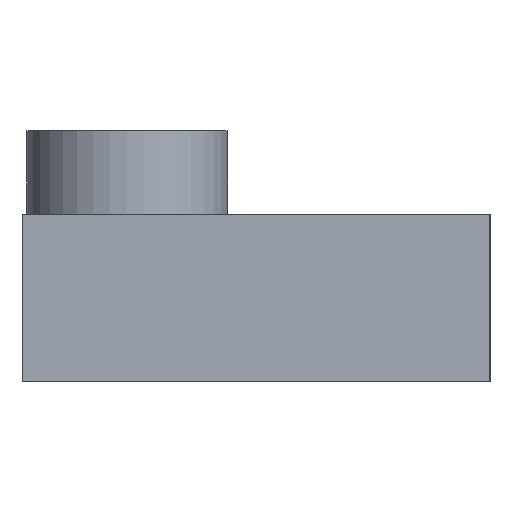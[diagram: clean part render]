
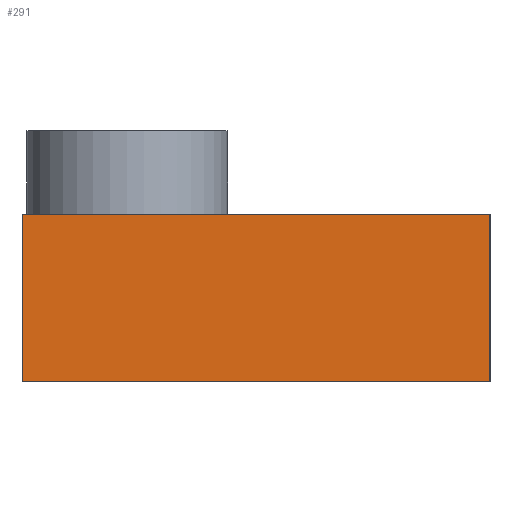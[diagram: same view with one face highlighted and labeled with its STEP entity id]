
A CAD part, left-side view. The second image highlights one B-rep face of the part: STEP entity #291.
In plain terms, the highlighted planar face has unit normal (-1, 0, 0).
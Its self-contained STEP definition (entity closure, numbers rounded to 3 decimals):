
#33=PLANE('',#325);
#49=FACE_OUTER_BOUND('',#73,.T.);
#73=EDGE_LOOP('',(#249,#250,#251,#252));
#89=LINE('',#453,#109);
#97=LINE('',#480,#117);
#98=LINE('',#483,#118);
#99=LINE('',#484,#119);
#109=VECTOR('',#371,10.);
#117=VECTOR('',#401,10.);
#118=VECTOR('',#404,10.);
#119=VECTOR('',#405,10.);
#151=VERTEX_POINT('',#450);
#152=VERTEX_POINT('',#452);
#160=VERTEX_POINT('',#478);
#161=VERTEX_POINT('',#482);
#179=EDGE_CURVE('',#151,#152,#89,.T.);
#193=EDGE_CURVE('',#151,#160,#97,.T.);
#194=EDGE_CURVE('',#161,#160,#98,.T.);
#195=EDGE_CURVE('',#152,#161,#99,.T.);
#249=ORIENTED_EDGE('',*,*,#193,.T.);
#250=ORIENTED_EDGE('',*,*,#194,.F.);
#251=ORIENTED_EDGE('',*,*,#195,.F.);
#252=ORIENTED_EDGE('',*,*,#179,.F.);
#291=ADVANCED_FACE('',(#49),#33,.T.);
#325=AXIS2_PLACEMENT_3D('',#481,#402,#403);
#371=DIRECTION('',(0.,0.,-1.));
#401=DIRECTION('',(0.,1.,0.));
#402=DIRECTION('center_axis',(-1.,0.,0.));
#403=DIRECTION('ref_axis',(0.,0.,1.));
#404=DIRECTION('',(0.,0.,1.));
#405=DIRECTION('',(0.,1.,0.));
#450=CARTESIAN_POINT('',(-20.5,21.8,5.));
#452=CARTESIAN_POINT('',(-20.5,21.8,1.));
#453=CARTESIAN_POINT('',(-20.5,21.8,16.));
#478=CARTESIAN_POINT('',(-20.5,33.,5.));
#480=CARTESIAN_POINT('',(-20.5,25.,5.));
#481=CARTESIAN_POINT('Origin',(-20.5,25.,1.));
#482=CARTESIAN_POINT('',(-20.5,33.,1.));
#483=CARTESIAN_POINT('',(-20.5,33.,16.));
#484=CARTESIAN_POINT('',(-20.5,25.,1.));
